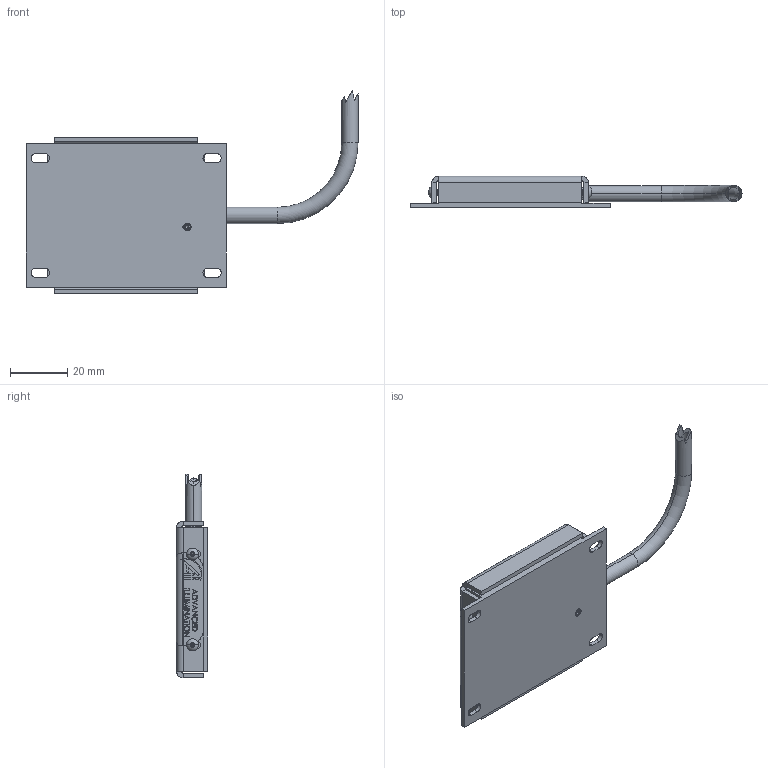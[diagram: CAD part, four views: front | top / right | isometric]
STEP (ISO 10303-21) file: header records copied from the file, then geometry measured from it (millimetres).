
FILE_DESCRIPTION (( 'STEP AP214' ), '1' );
FILE_NAME ('BT050050_Default.stp', '2021-05-03T20:32:52', ( '' ), ( '' ), 'SwSTEP 2.0', 'SolidWorks 2018', '' );
FILE_SCHEMA (( 'AUTOMOTIVE_DESIGN' ));
Length unit declared in the file: inch
Products named in the file (10): 092408_TRUNCATED; 097865_97763A314; 093470_DEFAULT; BT050050_Default; 091052 (BT200100); 092770_Default<As Machined>; 90073A011; 093310_Default<As Machined>; 092825_Default<As Machined>; 093308_Default<As Machined>
Assembly tree (12 placements, depth 2):
  BT050050_Default
    092825_Default<As Machined>
    093470_DEFAULT
    90073A011
    093310_Default<As Machined>
    093308_Default<As Machined>
    092770_Default<As Machined>
    097865_97763A314  x4
    091052 (BT200100)
    092408_TRUNCATED
Bounding box: 116.03 x 10.97 x 71.12 mm (x, y, z)
Volume: 18290 mm3; surface area: 28272.3 mm2
Topology: 19 solids, 19 shells, 791 faces, 1996 edges, 1267 vertices
Faces by surface type: plane 387, cylinder 225, cone 91, bspline 76, sphere 8, torus 4
Entity records: 34141 total; most frequent: CARTESIAN_POINT 15967, ORIENTED_EDGE 3080, DIRECTION 2613, EDGE_CURVE 1540, VERTEX_POINT 997, VECTOR 983, LINE 983, AXIS2_PLACEMENT_3D 815
